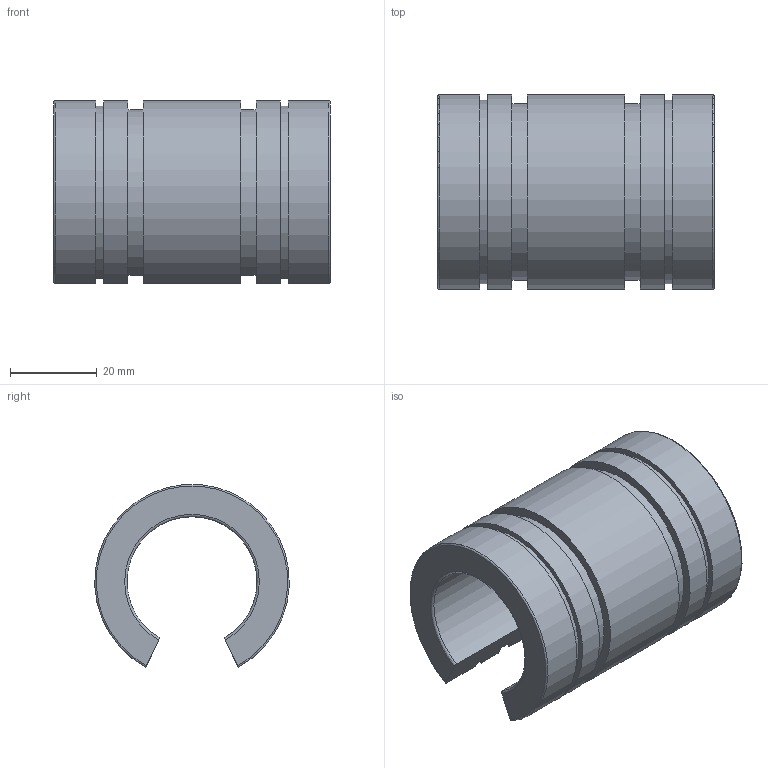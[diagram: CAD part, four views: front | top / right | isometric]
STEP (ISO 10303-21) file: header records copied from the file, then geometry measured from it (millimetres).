
FILE_DESCRIPTION(('STEP AP203'),'1');
FILE_NAME('//192.168.1.1/share/s-4 技術開発/s-4-4_CAD/s-4-4-3_見直し済み/PBC LINEAR修正済み/FJN/FJN_TOP/FJN30.step','2022-03-24T07:43:21',(' '),(' '),'Spatial InterOp 3D',' ',' ');
FILE_SCHEMA(('CONFIG_CONTROL_DESIGN'));
Length unit declared in the file: millimetre
Products named in the file (1): 1
Bounding box: 64 x 44.94 x 42.22 mm (x, y, z)
Volume: 45207.6 mm3; surface area: 16396.7 mm2
Topology: 1 solids, 1 shells, 26 faces, 72 edges, 48 vertices
Faces by surface type: plane 12, cylinder 10, torus 4
Entity records: 908 total; most frequent: CARTESIAN_POINT 187, ORIENTED_EDGE 144, DIRECTION 142, EDGE_CURVE 72, AXIS2_PLACEMENT_3D 51, VERTEX_POINT 48, LINE 40, VECTOR 40
